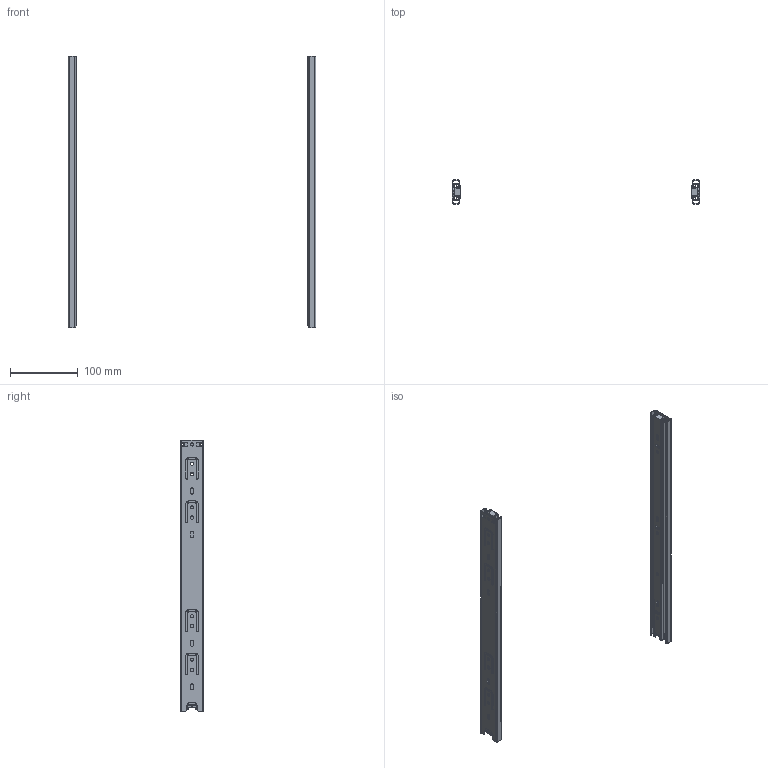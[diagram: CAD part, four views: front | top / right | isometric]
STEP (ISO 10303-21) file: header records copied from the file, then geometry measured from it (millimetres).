
FILE_DESCRIPTION(/* description */ (''),/* implementation_level */ '2;1');
FILE_NAME(/* name */ 'D:\$Workingspace\Designs\Katalog\Cadsoft\GTV Prowadnice\PK-0-H35-..Y\PK-0-H35-4000Y.stp',/* time_stamp */ '2021-06-24T10:22:43+02:00',/* author */ ('tomaszw'),/* organization */ (''),/* preprocessor_version */ 'ST-DEVELOPER v18.1',/* originating_system */ 'Autodesk Inventor 2021',/* authorisation */ '');
FILE_SCHEMA (('AUTOMOTIVE_DESIGN { 1 0 10303 214 3 1 1 }'));
Length unit declared in the file: millimetre
Products named in the file (5): PK-0H35-400_Y; PK-0H35_1-400; PK-0H35_2-400; PK-0H35_3-400; Blokada_3
Assembly tree (8 placements, depth 2):
  PK-0H35-400_Y
    PK-0H35_1-400  x2
    PK-0H35_2-400  x2
    PK-0H35_3-400  x2
    Blokada_3  x2
Bounding box: 364 x 34.8 x 400 mm (x, y, z)
Volume: 71743.8 mm3; surface area: 201410.6 mm2
Topology: 8 solids, 8 shells, 502 faces, 1458 edges, 972 vertices
Faces by surface type: plane 252, cylinder 250
Full cylindrical faces by diameter (mm): 4.5 x16, 5 x10
Entity records: 9010 total; most frequent: DIRECTION 1509, CARTESIAN_POINT 1480, ORIENTED_EDGE 1458, EDGE_CURVE 729, AXIS2_PLACEMENT_3D 515, VERTEX_POINT 486, LINE 479, VECTOR 479
